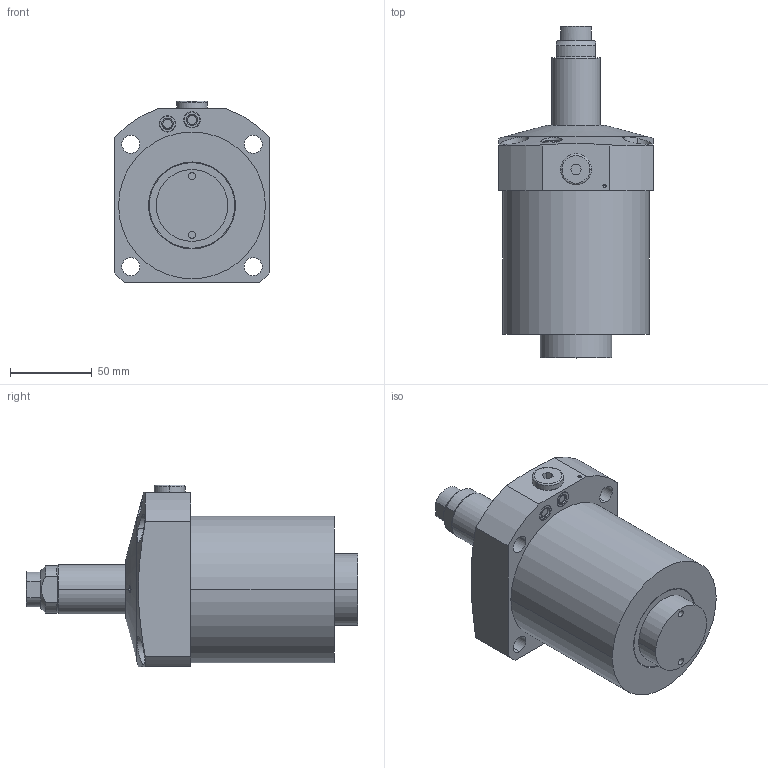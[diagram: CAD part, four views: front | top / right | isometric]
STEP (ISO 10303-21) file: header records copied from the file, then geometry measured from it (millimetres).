
FILE_DESCRIPTION(/* description */ (''),/* implementation_level */ '2;1');
FILE_NAME(/* name */ 'KFSS90-Q.stp',/* time_stamp */ '2023-01-10T13:28:55+08:00',/* author */ (''),/* organization */ (''),/* preprocessor_version */ 'ST-DEVELOPER v16.7',/* originating_system */ 'SIEMENS PLM Software NX 12.0',/* authorisation */ '');
FILE_SCHEMA (('AP203_CONFIGURATION_CONTROLLED_3D_DESIGN_OF_MECHANICAL_PARTS_AND_ASSEMBLIES_MIM_LF { 1 0 10303 403 2 1 2}'));
Length unit declared in the file: millimetre
Products named in the file (8): KFSS90-Q-6; KFSS90-Q-7; KFSS90-Q-1; KFSS90-Q-4; KFSS90-Q-5; KFSS90-Q-2; KFSS90-Q-3; LC0902-C-EQ_step
Assembly tree (8 placements, depth 2):
  LC0902-C-EQ_step
    KFSS90-Q-3
    KFSS90-Q-2
    KFSS90-Q-5  x2
    KFSS90-Q-4
    KFSS90-Q-1
    KFSS90-Q-7
    KFSS90-Q-6
Bounding box: 95 x 203.5 x 111.5 mm (x, y, z)
Volume: 905381.7 mm3; surface area: 80042.2 mm2
Topology: 8 solids, 8 shells, 217 faces, 472 edges, 292 vertices
Faces by surface type: cylinder 86, plane 63, cone 38, torus 28, sphere 2
Entity records: 6777 total; most frequent: CARTESIAN_POINT 1189, DIRECTION 1072, ORIENTED_EDGE 884, AXIS2_PLACEMENT_3D 448, EDGE_CURVE 442, VERTEX_POINT 278, EDGE_LOOP 244, CIRCLE 234
